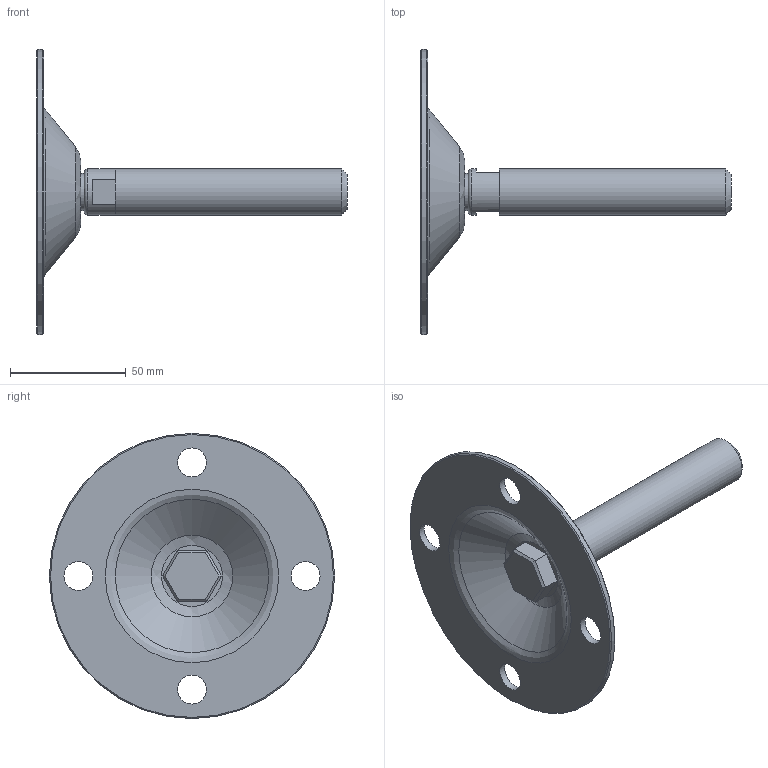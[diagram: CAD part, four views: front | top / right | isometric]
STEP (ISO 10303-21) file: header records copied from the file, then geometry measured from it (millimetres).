
FILE_DESCRIPTION(('STEP AP203'),'2;1');
FILE_NAME('15612Z.stp','2014-12-11T17:03:55',(''),(''),'2008.1.107','THINKDESIGN','');
FILE_SCHEMA(('CONFIG_CONTROL_DESIGN'));
Length unit declared in the file: millimetre
Bounding box: 134 x 123 x 123 mm (x, y, z)
Volume: 75075.6 mm3; surface area: 35896.2 mm2
Topology: 5 solids, 5 shells, 47 faces, 120 edges, 85 vertices
Faces by surface type: plane 22, bspline 16, cylinder 9
Full cylindrical faces by diameter (mm): 12.5 x4, 14 x1, 16 x1, 20 x2, 123 x1
Entity records: 2176 total; most frequent: CARTESIAN_POINT 897, DIRECTION 250, ORIENTED_EDGE 240, EDGE_CURVE 120, AXIS2_PLACEMENT_3D 99, VERTEX_POINT 85, CIRCLE 68, EDGE_LOOP 59
